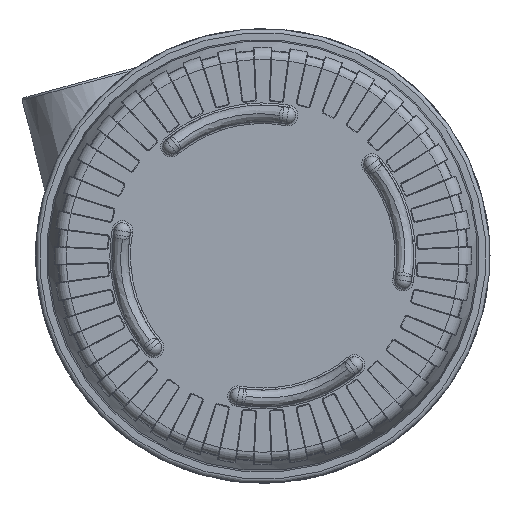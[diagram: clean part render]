
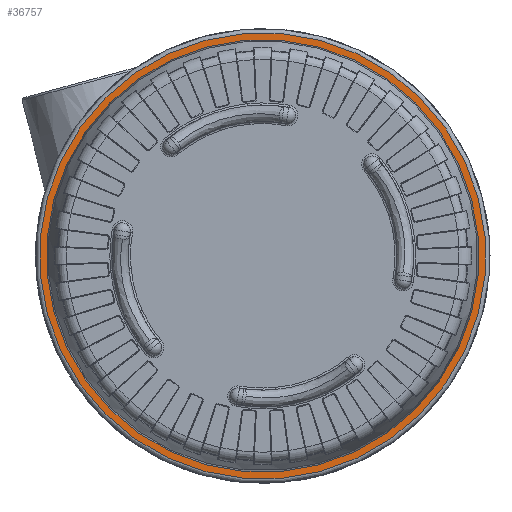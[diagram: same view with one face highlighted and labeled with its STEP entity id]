
A CAD part, top view. The second image highlights one B-rep face of the part: STEP entity #36757.
In plain terms, the highlighted planar face has unit normal (0, 0, 1).
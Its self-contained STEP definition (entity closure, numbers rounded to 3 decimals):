
#1316=FACE_BOUND('',#7506,.T.);
#1563=PLANE('',#39635);
#2752=CIRCLE('',#39634,52.349);
#2753=CIRCLE('',#39636,54.);
#5232=FACE_OUTER_BOUND('',#7505,.T.);
#7505=EDGE_LOOP('',(#27378));
#7506=EDGE_LOOP('',(#27379));
#14946=VERTEX_POINT('',#81925);
#14947=VERTEX_POINT('',#81929);
#19263=EDGE_CURVE('',#14946,#14946,#2752,.F.);
#19264=EDGE_CURVE('',#14947,#14947,#2753,.T.);
#27378=ORIENTED_EDGE('',*,*,#19264,.T.);
#27379=ORIENTED_EDGE('',*,*,#19263,.F.);
#36757=ADVANCED_FACE('',(#5232,#1316),#1563,.T.);
#39634=AXIS2_PLACEMENT_3D('',#81927,#46076,#46077);
#39635=AXIS2_PLACEMENT_3D('',#81928,#46078,#46079);
#39636=AXIS2_PLACEMENT_3D('',#81930,#46080,#46081);
#46076=DIRECTION('center_axis',(0.,0.,
-1.));
#46077=DIRECTION('ref_axis',(0.966,0.259,0.));
#46078=DIRECTION('center_axis',(0.,0.,
1.));
#46079=DIRECTION('ref_axis',(0.966,0.259,0.));
#46080=DIRECTION('center_axis',(0.,0.,
1.));
#46081=DIRECTION('ref_axis',(0.966,0.259,0.));
#81925=CARTESIAN_POINT('',(-50.565,-13.549,-8.));
#81927=CARTESIAN_POINT('Origin',(0.,0.,
-8.));
#81928=CARTESIAN_POINT('Origin',(50.228,13.459,-8.));
#81929=CARTESIAN_POINT('',(-52.16,-13.976,-8.));
#81930=CARTESIAN_POINT('Origin',(0.,0.,
-8.));
